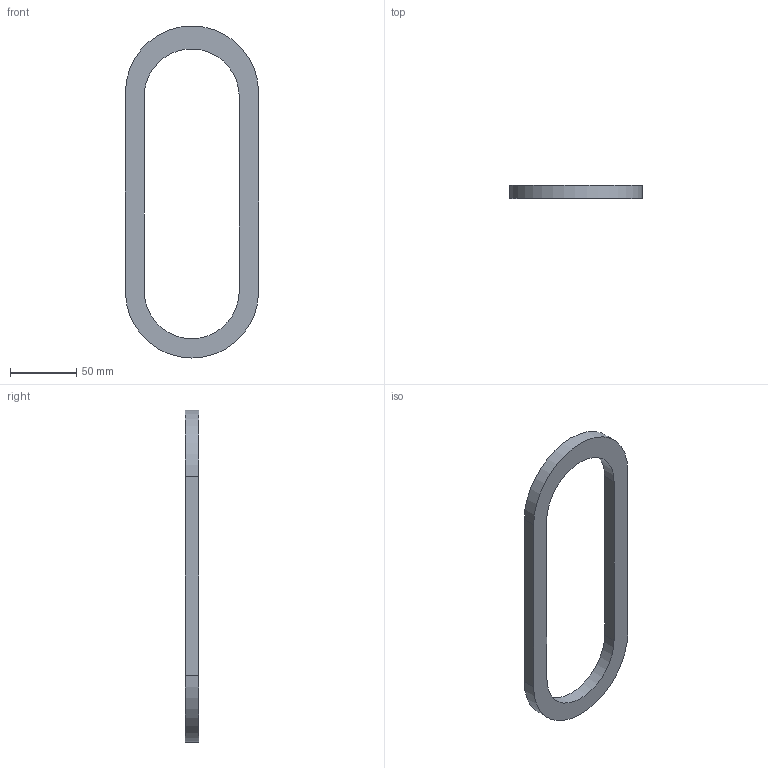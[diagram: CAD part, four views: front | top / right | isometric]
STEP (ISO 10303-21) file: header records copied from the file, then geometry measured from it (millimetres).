
FILE_DESCRIPTION(/* description */ ('STEP AP242 Edition 2','CAx-IF Rec.Pracs.---Representation and Presentation of Product Manufacturing Information (PMI)---4.0---2014-10-13','CAx-IF Rec.Pracs.---3D Tessellated Geometry---0.4---2014-09-14','2;1','CAx-IF Rec.Pracs.---User Defined Attributes---1.5---2016-08-15'),/* implementation_level */ '2;1');
FILE_NAME(/* name */ 'Part Studio 1 - Part 1',/* time_stamp */ '2026-10-19T00:09:51Z',/* author */ (''),/* organization */ (''),/* preprocessor_version */ 'ST-DEVELOPER v20',/* originating_system */ 'ONSHAPE BY PTC INC, 1.222',/* authorisation */ ' ');
FILE_SCHEMA (('AP242_MANAGED_MODEL_BASED_3D_ENGINEERING_MIM_LF { 1 0 10303 442 3 1 4 }'));
Length unit declared in the file: metre
Products named in the file (1): Part 1
Bounding box: 100.4 x 10 x 250.35 mm (x, y, z)
Volume: 84420.9 mm3; surface area: 28224.2 mm2
Topology: 1 solids, 1 shells, 10 faces, 24 edges, 16 vertices
Faces by surface type: plane 6, cylinder 4
Entity records: 322 total; most frequent: DIRECTION 54, CARTESIAN_POINT 51, ORIENTED_EDGE 48, EDGE_CURVE 24, AXIS2_PLACEMENT_3D 19, VERTEX_POINT 16, LINE 16, VECTOR 16
